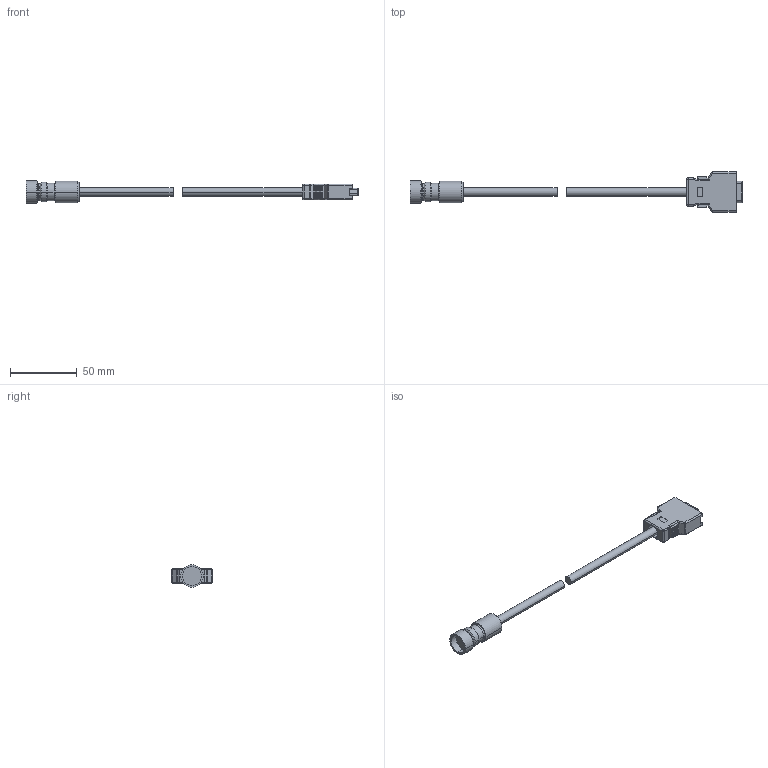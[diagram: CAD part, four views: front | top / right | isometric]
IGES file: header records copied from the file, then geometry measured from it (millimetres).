
Start section: Elysium IGES Interface
Global section: file name: 72HC:\Users\u160620\Desktop\技術提供20252609\06AHP055_SIGNALCABLE_FANUC.igs; native system: Creo Elements/Direct Modeling 18.1I  13-Aug-2016; preprocessor: Creo Element/Direct IGES_3D V2.2; author: Unknown; organization: Unknown; date: 20251216.120104; units: millimetre
Bounding box: 248.4 x 30 x 17 mm (x, y, z)
Volume: 22369.5 mm3; surface area: 10460.1 mm2
Topology: 2 solids, 2 shells, 286 faces, 734 edges, 445 vertices
Faces by surface type: bspline 286
